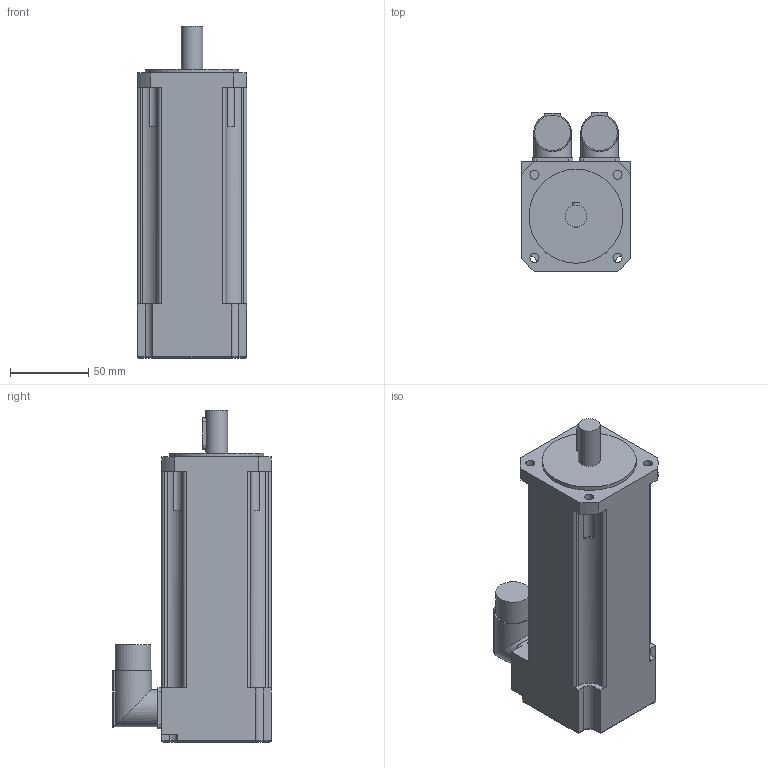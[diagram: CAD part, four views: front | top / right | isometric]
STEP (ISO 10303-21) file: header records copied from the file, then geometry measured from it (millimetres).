
FILE_DESCRIPTION(/* description */ (''),/* implementation_level */ '2;1');
FILE_NAME(/* name */ '\\Lafnas01\disegni\Archivi Lafert\3D\CAD 3D\MODELLI\Assiemi clienti\Serad\Modelli 3D Serad\B36Q\Resolver\Res Without Brake\B3603Qxx6A052033.ipt.stp',/* time_stamp */ '2015-09-07T10:49:32+02:00',/* author */ ('Pastrello Ylenia'),/* organization */ (''),/* preprocessor_version */ 'ST-DEVELOPER v15.6',/* originating_system */ 'Autodesk Inventor 2015',/* authorisation */ '');
FILE_SCHEMA (('AUTOMOTIVE_DESIGN { 1 0 10303 214 3 1 1 }'));
Length unit declared in the file: millimetre
Products named in the file (1): B3603Qxx6A052033
Bounding box: 70 x 101.5 x 212 mm (x, y, z)
Volume: 856667.9 mm3; surface area: 69207.4 mm2
Topology: 1 solids, 1 shells, 121 faces, 322 edges, 210 vertices
Faces by surface type: plane 59, cylinder 58, torus 4
Full cylindrical faces by diameter (mm): 5.8 x4, 14 x1, 22.7 x2, 24 x2, 60 x1
Entity records: 3806 total; most frequent: CARTESIAN_POINT 678, DIRECTION 676, ORIENTED_EDGE 624, EDGE_CURVE 312, AXIS2_PLACEMENT_3D 244, VERTEX_POINT 210, LINE 188, VECTOR 188
